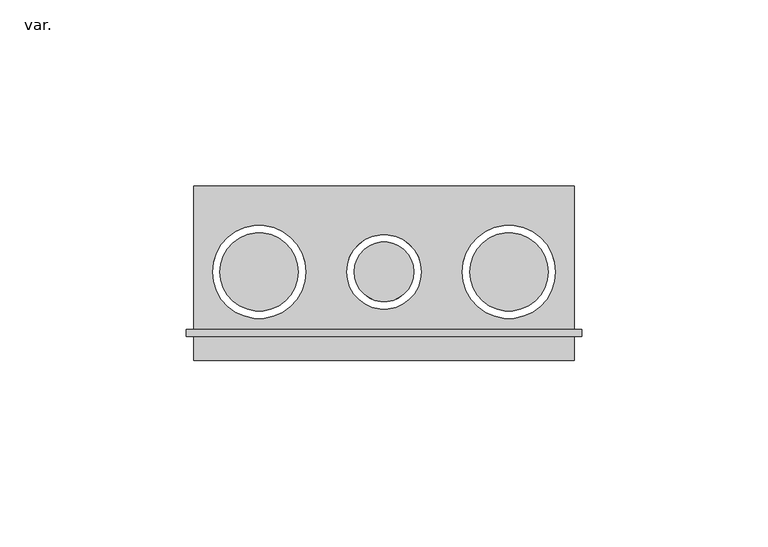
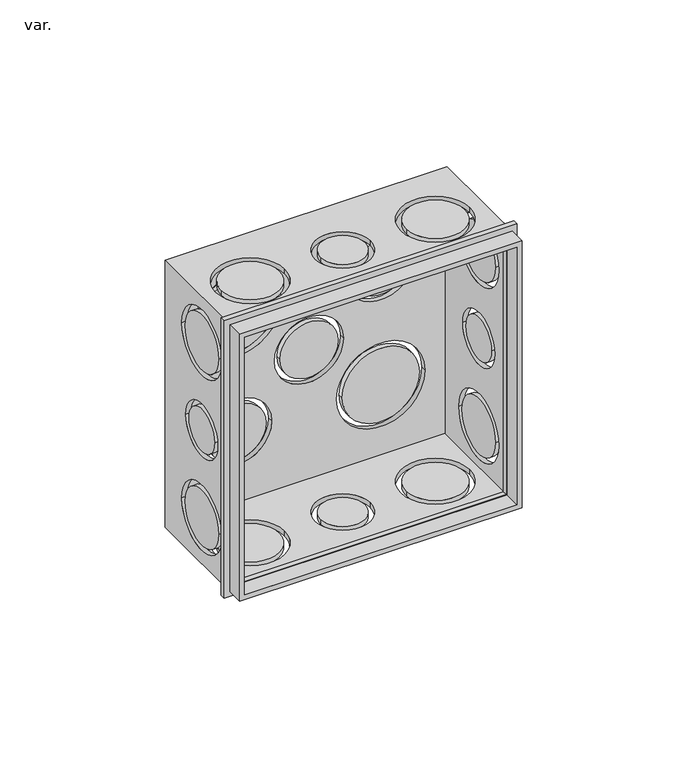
"""IFC4 building model written with IfcOpenShell, lengths in millimetres: pipe fitting geometry, AmancoWavin_ConexõesdoConduite_LinhaEletricaCorrugadoCaixa4x4 : var.."""

import ifcopenshell
import ifcopenshell.guid

model = None  # the IFC model being written
_history = None  # IfcOwnerHistory: only IFC2X3 demands one
_inside = {}  # id of a spatial element -> (the spatial element, [elements in it])
_under = {}  # id of a project, library or spatial element -> (it, [spatial elements below it])
_declared = {}  # id of a project -> (the project, [libraries it declares])
_typed = {}  # id of a type object -> (the type object, [elements of that type])
_made_of = {}  # id of a material, layer set ... -> (it, [elements and type objects made of it])


def new_model(schema):
    """Start an empty IFC model of exactly this schema.

    Asked for "IFC4X3", IfcOpenShell would pick the latest addendum, in which some entities
    have other attributes; the version numbers below select the first issue.
    IFC2X3 requires an IfcOwnerHistory on every rooted entity: one is made here for all.
    """
    global model, _history
    if schema == "IFC4X3":
        model = ifcopenshell.file(schema_version=(4, 3, 0, 0))
    else:
        model = ifcopenshell.file(schema=schema)
    _inside.clear()
    _under.clear()
    _declared.clear()
    _typed.clear()
    _made_of.clear()
    _history = None
    if model.schema == "IFC2X3":
        org = make("IfcOrganization", Name="unknown")
        user = make(
            "IfcPersonAndOrganization",
            ThePerson=make("IfcPerson", FamilyName="unknown"),
            TheOrganization=org,
        )
        app = make(
            "IfcApplication",
            ApplicationDeveloper=org,
            Version="unknown",
            ApplicationFullName="unknown",
            ApplicationIdentifier="unknown",
        )
        _history = make(
            "IfcOwnerHistory",
            OwningUser=user,
            OwningApplication=app,
            ChangeAction="ADDED",
            CreationDate=0,
        )
    return model


def make(cls, **values):
    """One entity of the class cls with the attributes given. An attribute that is None is left unset."""
    return model.create_entity(
        cls, **{name: value for name, value in values.items() if value is not None}
    )


def rooted(cls, **values):
    """An entity with a GlobalId (a new one), such as an element, a storey or a relation."""
    return make(cls, GlobalId=ifcopenshell.guid.new(), OwnerHistory=_history, **values)


def si_unit(unit_type, name, prefix=None):
    """IfcSIUnit, for example si_unit("LENGTHUNIT", "METRE", prefix="MILLI")."""
    return make("IfcSIUnit", UnitType=unit_type, Prefix=prefix, Name=name)


def assignment(units):
    """IfcUnitAssignment: the units of a project."""
    return None if units is None else make("IfcUnitAssignment", Units=units)


def point(xyz):
    """IfcCartesianPoint."""
    return None if xyz is None else make("IfcCartesianPoint", Coordinates=xyz)


def direction(xyz):
    """IfcDirection."""
    return None if xyz is None else make("IfcDirection", DirectionRatios=xyz)


def frame(location, z_axis=None, x_axis=None):
    """IfcAxis2Placement3D, a coordinate frame: its origin and axes. An axis left out is left unset."""
    return make(
        "IfcAxis2Placement3D",
        Location=point(location),
        Axis=direction(z_axis),
        RefDirection=direction(x_axis),
    )


def origin():
    """The frame at (0, 0, 0) with its axes left unset."""
    return frame((0.0, 0.0, 0.0))


def place(relative_to, where):
    """IfcLocalPlacement: puts the frame where relative to a parent placement (None: the world)."""
    return make(
        "IfcLocalPlacement", PlacementRelTo=relative_to, RelativePlacement=where
    )


def context(
    kind, dimensions, precision=None, world=None, true_north=None, identifier=None
):
    """IfcGeometricRepresentationContext, for example the 3D "Model" context."""
    return make(
        "IfcGeometricRepresentationContext",
        ContextIdentifier=identifier,
        ContextType=kind,
        CoordinateSpaceDimension=dimensions,
        Precision=precision,
        WorldCoordinateSystem=world,
        TrueNorth=true_north,
    )


def project(units=None, contexts=None):
    """IfcProject with its units and contexts."""
    return rooted(
        "IfcProject",
        Name="project",
        RepresentationContexts=contexts,
        UnitsInContext=assignment(units),
    )


def spatial(cls, under=None, at=None, **own):
    """A site, building, storey or space (cls), placed at a placement, below another one or the project."""
    s = rooted(cls, ObjectPlacement=at, **own)
    if under is not None:
        _under.setdefault(under.id(), (under, []))[1].append(s)
    return s


def polyline(points):
    """IfcPolyline through the points."""
    return make("IfcPolyline", Points=[point(p) for p in points])


def circle_curve(where, radius):
    """IfcCircle in the frame where."""
    return make("IfcCircle", Position=where, Radius=radius)


def outline(outer, holes=None, kind="AREA"):
    """IfcArbitraryClosedProfileDef: a profile drawn as a closed curve; with holes, ...WithVoids."""
    if holes is None:
        return make("IfcArbitraryClosedProfileDef", ProfileType=kind, OuterCurve=outer)
    return make(
        "IfcArbitraryProfileDefWithVoids",
        ProfileType=kind,
        OuterCurve=outer,
        InnerCurves=holes,
    )


def extrude(swept, where, along, depth):
    """IfcExtrudedAreaSolid: the profile swept, set in the frame where, extruded along a direction by depth."""
    return make(
        "IfcExtrudedAreaSolid",
        SweptArea=swept,
        Position=where,
        ExtrudedDirection=direction(along),
        Depth=depth,
    )


def shape(context_of_items, identifier, shape_type, items):
    """IfcShapeRepresentation: the items that make up one representation, for example the "Body"."""
    return make(
        "IfcShapeRepresentation",
        ContextOfItems=context_of_items,
        RepresentationIdentifier=identifier,
        RepresentationType=shape_type,
        Items=items,
    )


def source(mapping_origin, context_of_items, identifier, shape_type, items):
    """IfcRepresentationMap: a shape defined once, which mapped items show again and again."""
    return make(
        "IfcRepresentationMap",
        MappingOrigin=mapping_origin,
        MappedRepresentation=shape(context_of_items, identifier, shape_type, items),
    )


def transform(
    local_origin,
    x_axis=None,
    y_axis=None,
    z_axis=None,
    scale=None,
    scale2=None,
    scale3=None,
    uniform=True,
):
    """IfcCartesianTransformationOperator3D, or its non-uniform kind. x_axis, y_axis, z_axis: its Axis1, 2, 3."""
    if uniform:
        return make(
            "IfcCartesianTransformationOperator3D",
            Axis1=direction(x_axis),
            Axis2=direction(y_axis),
            LocalOrigin=point(local_origin),
            Scale=scale,
            Axis3=direction(z_axis),
        )
    return make(
        "IfcCartesianTransformationOperator3DnonUniform",
        Axis1=direction(x_axis),
        Axis2=direction(y_axis),
        LocalOrigin=point(local_origin),
        Scale=scale,
        Axis3=direction(z_axis),
        Scale2=scale2,
        Scale3=scale3,
    )


def mapped(mapping_source, mapping_target):
    """IfcMappedItem: shows the shape of a source again, moved by a transform."""
    return make(
        "IfcMappedItem", MappingSource=mapping_source, MappingTarget=mapping_target
    )


def made_of(thing, what):
    """Note that an element or type object is made of a material, layer set ...; save() writes the relation."""
    if what is not None:
        _made_of.setdefault(what.id(), (what, []))[1].append(thing)
    return thing


def element(
    cls,
    number,
    at=None,
    inside=None,
    cuts=None,
    type_object=None,
    material=None,
    context=None,
    identifier="Body",
    shape_type=None,
    held_by="IfcProductDefinitionShape",
    body=None,
    shapes=None,
    **own,
):
    """One element of the class cls, such as IfcWall. Its Tag is "e" and its number.

    at: its placement. inside: the storey or other place that contains it. cuts: it is an
    opening in that element (IfcRelVoidsElement). A single representation is given by context,
    identifier, shape_type and body (its items); several are given by shapes. held_by: the class
    of the entity that holds the representations. save() writes the other relations.
    """
    e = rooted(cls, Tag="e%d" % number, ObjectPlacement=at, **own)
    if body is not None:
        shapes = [shape(context, identifier, shape_type, body)]
    if shapes is not None:
        e.Representation = make(held_by, Representations=shapes)
    if inside is not None:
        _inside.setdefault(inside.id(), (inside, []))[1].append(e)
    if cuts is not None:
        rooted(
            "IfcRelVoidsElement", RelatingBuildingElement=cuts, RelatedOpeningElement=e
        )
    if type_object is not None:
        _typed.setdefault(type_object.id(), (type_object, []))[1].append(e)
    return made_of(e, material)


def aggregate(whole, parts):
    """IfcRelAggregates: a whole, such as a stair, and the parts it consists of."""
    return rooted("IfcRelAggregates", RelatingObject=whole, RelatedObjects=parts)


def save(model, path):
    """Write the relations noted so far, then the file.

    IfcRelAggregates (storeys below a building ...), IfcRelContainedInSpatialStructure (elements
    in a storey), IfcRelDefinesByType, IfcRelAssociatesMaterial and IfcRelDeclares: one each for
    every whole, place, type object, material and project.
    """
    for whole, parts in _under.values():
        aggregate(whole, parts)
    for where, things in _inside.values():
        rooted(
            "IfcRelContainedInSpatialStructure",
            RelatedElements=things,
            RelatingStructure=where,
        )
    for kind, things in _typed.values():
        rooted("IfcRelDefinesByType", RelatedObjects=things, RelatingType=kind)
    for what, things in _made_of.values():
        rooted("IfcRelAssociatesMaterial", RelatedObjects=things, RelatingMaterial=what)
    for by, libraries in _declared.values():
        rooted("IfcRelDeclares", RelatingContext=by, RelatedDefinitions=libraries)
    model.write(path)


def plane_surface(at):
    """IfcPlane: the flat surface through the origin of the frame at, square to its z axis."""
    return make("IfcPlane", Position=at)


def cylinder_surface(at, radius):
    """IfcCylindricalSurface: all points at the distance radius from the z axis of the frame at."""
    return make("IfcCylindricalSurface", Position=at, Radius=radius)


def revolved_surface(curve, axis_point, axis_direction):
    """IfcSurfaceOfRevolution: the curve turned about the line through axis_point along axis_direction."""
    return make(
        "IfcSurfaceOfRevolution",
        SweptCurve=make("IfcArbitraryOpenProfileDef", ProfileType="CURVE", Curve=curve),
        AxisPosition=make("IfcAxis1Placement", Location=point(axis_point), Axis=direction(axis_direction)),
    )


def advanced_brep(points, edges, surfaces, faces):
    """IfcAdvancedBrep: a solid bounded by faces that lie on surfaces and meet in shared edges.

    An edge is (start, end): straight between two places in points (the first is 0);
    or (start, end, curve); or (start, end, curve, False) where it runs against its curve.
    A face is (place in surfaces, loops), or (place, loops, False) where it looks against
    its surface's normal. A loop lists edges by number (the first is 1), with a minus sign
    where the edge is run from its end to its start. The first loop is the outer one.
    """
    corners = [point(p) for p in points]
    vertices = [make("IfcVertexPoint", VertexGeometry=c) for c in corners]
    made = []
    for start, end, *more in edges:
        made.append(
            make(
                "IfcEdgeCurve",
                EdgeStart=vertices[start],
                EdgeEnd=vertices[end],
                EdgeGeometry=more[0] if more else make("IfcPolyline", Points=[corners[start], corners[end]]),
                SameSense=more[1] if len(more) > 1 else True,
            )
        )
    hull = []
    for where, loops, *sense in faces:
        bounds = []
        for j, loop in enumerate(loops):
            ring = [make("IfcOrientedEdge", EdgeElement=made[abs(k) - 1], Orientation=k > 0) for k in loop]
            bounds.append(
                make(
                    "IfcFaceOuterBound" if j == 0 else "IfcFaceBound",
                    Bound=make("IfcEdgeLoop", EdgeList=ring),
                    Orientation=True,
                )
            )
        hull.append(make("IfcAdvancedFace", Bounds=bounds, FaceSurface=surfaces[where], SameSense=sense[0] if sense else True))
    return make("IfcAdvancedBrep", Outer=make("IfcClosedShell", CfsFaces=hull))


def var_34743248(model_context):
    return source(origin(), model_context, "Body", "SolidModel", [
        extrude(outline(polyline([(53.0, 53.0), (53.0, -53.0), (-53.0, -53.0), (-53.0, 53.0), (53.0, 53.0)]), holes=[polyline([(49.2, 49.2), (-49.2, 49.2), (-49.2, -49.2), (49.2, -49.2), (49.2, 49.2)])]), frame((0.0, 6.5, 0.0), z_axis=(0.0, 1.0, 0.0), x_axis=(0.0, 0.0, 1.0)), (0.0, 0.0, 1.0), 1.8),
        advanced_brep(
        [(51.0, 46.8, 51.0), (51.0, 46.8, -51.0), (-51.0, 46.8, -51.0), (-51.0, 46.8, 51.0), (-42.0, 46.8, 22.5), (-10.0, 46.8, 22.5), (13.5, 46.8, 22.5), (38.5, 46.8, 22.5), (-12.5, 46.8, 0.0), (12.5, 46.8, 0.0), (-38.5, 46.8, -22.5), (-13.5, 46.8, -22.5), (10.0, 46.8, -22.5), (42.0, 46.8, -22.5), (51.0, 0.0, 51.0), (-51.0, 0.0, 51.0), (-51.0, 0.0, -51.0), (51.0, 0.0, -51.0), (49.2, 0.0, 49.2), (49.2, 0.0, -49.2), (-49.2, 0.0, -49.2), (-49.2, 0.0, 49.2), (51.0, 33.8, 0.0), (51.0, 13.8, 0.0), (51.0, 36.3, 33.5), (51.0, 11.3, 33.5), (51.0, 36.3, -33.5), (51.0, 11.3, -33.5), (-10.0, 23.8, -51.0), (10.0, 23.8, -51.0), (-46.0, 23.8, -51.0), (-21.0, 23.8, -51.0), (21.0, 23.8, -51.0), (46.0, 23.8, -51.0), (-51.0, 13.8, 0.0), (-51.0, 33.8, 0.0), (-51.0, 11.3, 33.5), (-51.0, 36.3, 33.5), (-51.0, 11.3, -33.5), (-51.0, 36.3, -33.5), (10.0, 23.8, 51.0), (-10.0, 23.8, 51.0), (-21.0, 23.8, 51.0), (-46.0, 23.8, 51.0), (46.0, 23.8, 51.0), (21.0, 23.8, 51.0), (49.2, 45.0, 49.2), (-49.2, 45.0, 49.2), (-49.2, 45.0, -49.2), (49.2, 45.0, -49.2), (-10.0, 45.0, 22.5), (-42.0, 45.0, 22.5), (38.5, 45.0, 22.5), (13.5, 45.0, 22.5), (12.5, 45.0, 0.0), (-12.5, 45.0, 0.0), (-13.5, 45.0, -22.5), (-38.5, 45.0, -22.5), (42.0, 45.0, -22.5), (10.0, 45.0, -22.5), (49.2, 13.8, 0.0), (49.2, 33.8, 0.0), (49.2, 11.3, 33.5), (49.2, 36.3, 33.5), (49.2, 11.3, -33.5), (49.2, 36.3, -33.5), (10.0, 23.8, -49.2), (-10.0, 23.8, -49.2), (-21.0, 23.8, -49.2), (-46.0, 23.8, -49.2), (46.0, 23.8, -49.2), (21.0, 23.8, -49.2), (-49.2, 33.8, 0.0), (-49.2, 13.8, 0.0), (-49.2, 36.3, 33.5), (-49.2, 11.3, 33.5), (-49.2, 36.3, -33.5), (-49.2, 11.3, -33.5), (-10.0, 23.8, 49.2), (10.0, 23.8, 49.2), (-46.0, 23.8, 49.2), (-21.0, 23.8, 49.2), (21.0, 23.8, 49.2), (46.0, 23.8, 49.2)],
        [
            (0, 1),
            (1, 2),
            (2, 3),
            (3, 0),
            (4, 5, circle_curve(frame((-26.0, 46.8, 22.5), z_axis=(0.0, -1.0, 0.0), x_axis=(-1.0, 0.0, 0.0)), 16.0)),
            (5, 4, circle_curve(frame((-26.0, 46.8, 22.5), z_axis=(0.0, -1.0, 0.0), x_axis=(-1.0, 0.0, 0.0)), 16.0)),
            (6, 7, circle_curve(frame((26.0, 46.8, 22.5), z_axis=(0.0, -1.0, 0.0), x_axis=(-1.0, 0.0, 0.0)), 12.5)),
            (7, 6, circle_curve(frame((26.0, 46.8, 22.5), z_axis=(0.0, -1.0, 0.0), x_axis=(-1.0, 0.0, 0.0)), 12.5)),
            (8, 9, circle_curve(frame((0.0, 46.8, 0.0), z_axis=(0.0, -1.0, 0.0), x_axis=(-1.0, 0.0, 0.0)), 12.5)),
            (9, 8, circle_curve(frame((0.0, 46.8, 0.0), z_axis=(0.0, -1.0, 0.0), x_axis=(-1.0, 0.0, 0.0)), 12.5)),
            (10, 11, circle_curve(frame((-26.0, 46.8, -22.5), z_axis=(0.0, -1.0, 0.0), x_axis=(-1.0, 0.0, 0.0)), 12.5)),
            (11, 10, circle_curve(frame((-26.0, 46.8, -22.5), z_axis=(0.0, -1.0, 0.0), x_axis=(-1.0, 0.0, 0.0)), 12.5)),
            (12, 13, circle_curve(frame((26.0, 46.8, -22.5), z_axis=(0.0, -1.0, 0.0), x_axis=(-1.0, 0.0, 0.0)), 16.0)),
            (13, 12, circle_curve(frame((26.0, 46.8, -22.5), z_axis=(0.0, -1.0, 0.0), x_axis=(-1.0, 0.0, 0.0)), 16.0)),
            (14, 15),
            (15, 16),
            (16, 17),
            (17, 14),
            (18, 19),
            (19, 20),
            (20, 21),
            (21, 18),
            (0, 14),
            (17, 1),
            (22, 23, circle_curve(frame((51.0, 23.8, 0.0), z_axis=(-1.0, 0.0, 0.0), x_axis=(0.0, -1.0, 0.0)), 10.0)),
            (23, 22, circle_curve(frame((51.0, 23.8, 0.0), z_axis=(-1.0, 0.0, 0.0), x_axis=(0.0, -1.0, 0.0)), 10.0)),
            (24, 25, circle_curve(frame((51.0, 23.8, 33.5), z_axis=(-1.0, 0.0, 0.0), x_axis=(0.0, -1.0, 0.0)), 12.5)),
            (25, 24, circle_curve(frame((51.0, 23.8, 33.5), z_axis=(-1.0, 0.0, 0.0), x_axis=(0.0, -1.0, 0.0)), 12.5)),
            (26, 27, circle_curve(frame((51.0, 23.8, -33.5), z_axis=(-1.0, 0.0, 0.0), x_axis=(0.0, -1.0, 0.0)), 12.5)),
            (27, 26, circle_curve(frame((51.0, 23.8, -33.5), z_axis=(-1.0, 0.0, 0.0), x_axis=(0.0, -1.0, 0.0)), 12.5)),
            (16, 2),
            (28, 29, circle_curve(frame((0.0, 23.8, -51.0), z_axis=(0.0, 0.0, 1.0), x_axis=(1.0, 0.0, 0.0)), 10.0)),
            (29, 28, circle_curve(frame((0.0, 23.8, -51.0), z_axis=(0.0, 0.0, 1.0), x_axis=(1.0, 0.0, 0.0)), 10.0)),
            (30, 31, circle_curve(frame((-33.5, 23.8, -51.0), z_axis=(0.0, 0.0, 1.0), x_axis=(1.0, 0.0, 0.0)), 12.5)),
            (31, 30, circle_curve(frame((-33.5, 23.8, -51.0), z_axis=(0.0, 0.0, 1.0), x_axis=(1.0, 0.0, 0.0)), 12.5)),
            (32, 33, circle_curve(frame((33.5, 23.8, -51.0), z_axis=(0.0, 0.0, 1.0), x_axis=(1.0, 0.0, 0.0)), 12.5)),
            (33, 32, circle_curve(frame((33.5, 23.8, -51.0), z_axis=(0.0, 0.0, 1.0), x_axis=(1.0, 0.0, 0.0)), 12.5)),
            (15, 3),
            (34, 35, circle_curve(frame((-51.0, 23.8, 0.0), z_axis=(1.0, 0.0, 0.0), x_axis=(0.0, -1.0, 0.0)), 10.0)),
            (35, 34, circle_curve(frame((-51.0, 23.8, 0.0), z_axis=(1.0, 0.0, 0.0), x_axis=(0.0, -1.0, 0.0)), 10.0)),
            (36, 37, circle_curve(frame((-51.0, 23.8, 33.5), z_axis=(1.0, 0.0, 0.0), x_axis=(0.0, -1.0, 0.0)), 12.5)),
            (37, 36, circle_curve(frame((-51.0, 23.8, 33.5), z_axis=(1.0, 0.0, 0.0), x_axis=(0.0, -1.0, 0.0)), 12.5)),
            (38, 39, circle_curve(frame((-51.0, 23.8, -33.5), z_axis=(1.0, 0.0, 0.0), x_axis=(0.0, -1.0, 0.0)), 12.5)),
            (39, 38, circle_curve(frame((-51.0, 23.8, -33.5), z_axis=(1.0, 0.0, 0.0), x_axis=(0.0, -1.0, 0.0)), 12.5)),
            (40, 41, circle_curve(frame((0.0, 23.8, 51.0), z_axis=(0.0, 0.0, -1.0), x_axis=(1.0, 0.0, 0.0)), 10.0)),
            (41, 40, circle_curve(frame((0.0, 23.8, 51.0), z_axis=(0.0, 0.0, -1.0), x_axis=(1.0, 0.0, 0.0)), 10.0)),
            (42, 43, circle_curve(frame((-33.5, 23.8, 51.0), z_axis=(0.0, 0.0, -1.0), x_axis=(1.0, 0.0, 0.0)), 12.5)),
            (43, 42, circle_curve(frame((-33.5, 23.8, 51.0), z_axis=(0.0, 0.0, -1.0), x_axis=(1.0, 0.0, 0.0)), 12.5)),
            (44, 45, circle_curve(frame((33.5, 23.8, 51.0), z_axis=(0.0, 0.0, -1.0), x_axis=(1.0, 0.0, 0.0)), 12.5)),
            (45, 44, circle_curve(frame((33.5, 23.8, 51.0), z_axis=(0.0, 0.0, -1.0), x_axis=(1.0, 0.0, 0.0)), 12.5)),
            (46, 47),
            (47, 48),
            (48, 49),
            (49, 46),
            (50, 51, circle_curve(frame((-26.0, 45.0, 22.5), z_axis=(0.0, 1.0, 0.0), x_axis=(-1.0, 0.0, 0.0)), 16.0)),
            (51, 50, circle_curve(frame((-26.0, 45.0, 22.5), z_axis=(0.0, 1.0, 0.0), x_axis=(-1.0, 0.0, 0.0)), 16.0)),
            (52, 53, circle_curve(frame((26.0, 45.0, 22.5), z_axis=(0.0, 1.0, 0.0), x_axis=(-1.0, 0.0, 0.0)), 12.5)),
            (53, 52, circle_curve(frame((26.0, 45.0, 22.5), z_axis=(0.0, 1.0, 0.0), x_axis=(-1.0, 0.0, 0.0)), 12.5)),
            (54, 55, circle_curve(frame((0.0, 45.0, 0.0), z_axis=(0.0, 1.0, 0.0), x_axis=(-1.0, 0.0, 0.0)), 12.5)),
            (55, 54, circle_curve(frame((0.0, 45.0, 0.0), z_axis=(0.0, 1.0, 0.0), x_axis=(-1.0, 0.0, 0.0)), 12.5)),
            (56, 57, circle_curve(frame((-26.0, 45.0, -22.5), z_axis=(0.0, 1.0, 0.0), x_axis=(-1.0, 0.0, 0.0)), 12.5)),
            (57, 56, circle_curve(frame((-26.0, 45.0, -22.5), z_axis=(0.0, 1.0, 0.0), x_axis=(-1.0, 0.0, 0.0)), 12.5)),
            (58, 59, circle_curve(frame((26.0, 45.0, -22.5), z_axis=(0.0, 1.0, 0.0), x_axis=(-1.0, 0.0, 0.0)), 16.0)),
            (59, 58, circle_curve(frame((26.0, 45.0, -22.5), z_axis=(0.0, 1.0, 0.0), x_axis=(-1.0, 0.0, 0.0)), 16.0)),
            (49, 19),
            (18, 46),
            (60, 61, circle_curve(frame((49.2, 23.8, 0.0), z_axis=(1.0, 0.0, 0.0), x_axis=(0.0, -1.0, 0.0)), 10.0)),
            (61, 60, circle_curve(frame((49.2, 23.8, 0.0), z_axis=(1.0, 0.0, 0.0), x_axis=(0.0, -1.0, 0.0)), 10.0)),
            (62, 63, circle_curve(frame((49.2, 23.8, 33.5), z_axis=(1.0, 0.0, 0.0), x_axis=(0.0, -1.0, 0.0)), 12.5)),
            (63, 62, circle_curve(frame((49.2, 23.8, 33.5), z_axis=(1.0, 0.0, 0.0), x_axis=(0.0, -1.0, 0.0)), 12.5)),
            (64, 65, circle_curve(frame((49.2, 23.8, -33.5), z_axis=(1.0, 0.0, 0.0), x_axis=(0.0, -1.0, 0.0)), 12.5)),
            (65, 64, circle_curve(frame((49.2, 23.8, -33.5), z_axis=(1.0, 0.0, 0.0), x_axis=(0.0, -1.0, 0.0)), 12.5)),
            (48, 20),
            (66, 67, circle_curve(frame((0.0, 23.8, -49.2), z_axis=(0.0, 0.0, -1.0), x_axis=(1.0, 0.0, 0.0)), 10.0)),
            (67, 66, circle_curve(frame((0.0, 23.8, -49.2), z_axis=(0.0, 0.0, -1.0), x_axis=(1.0, 0.0, 0.0)), 10.0)),
            (68, 69, circle_curve(frame((-33.5, 23.8, -49.2), z_axis=(0.0, 0.0, -1.0), x_axis=(1.0, 0.0, 0.0)), 12.5)),
            (69, 68, circle_curve(frame((-33.5, 23.8, -49.2), z_axis=(0.0, 0.0, -1.0), x_axis=(1.0, 0.0, 0.0)), 12.5)),
            (70, 71, circle_curve(frame((33.5, 23.8, -49.2), z_axis=(0.0, 0.0, -1.0), x_axis=(1.0, 0.0, 0.0)), 12.5)),
            (71, 70, circle_curve(frame((33.5, 23.8, -49.2), z_axis=(0.0, 0.0, -1.0), x_axis=(1.0, 0.0, 0.0)), 12.5)),
            (47, 21),
            (72, 73, circle_curve(frame((-49.2, 23.8, 0.0), z_axis=(-1.0, 0.0, 0.0), x_axis=(0.0, -1.0, 0.0)), 10.0)),
            (73, 72, circle_curve(frame((-49.2, 23.8, 0.0), z_axis=(-1.0, 0.0, 0.0), x_axis=(0.0, -1.0, 0.0)), 10.0)),
            (74, 75, circle_curve(frame((-49.2, 23.8, 33.5), z_axis=(-1.0, 0.0, 0.0), x_axis=(0.0, -1.0, 0.0)), 12.5)),
            (75, 74, circle_curve(frame((-49.2, 23.8, 33.5), z_axis=(-1.0, 0.0, 0.0), x_axis=(0.0, -1.0, 0.0)), 12.5)),
            (76, 77, circle_curve(frame((-49.2, 23.8, -33.5), z_axis=(-1.0, 0.0, 0.0), x_axis=(0.0, -1.0, 0.0)), 12.5)),
            (77, 76, circle_curve(frame((-49.2, 23.8, -33.5), z_axis=(-1.0, 0.0, 0.0), x_axis=(0.0, -1.0, 0.0)), 12.5)),
            (78, 79, circle_curve(frame((0.0, 23.8, 49.2), z_axis=(0.0, 0.0, 1.0), x_axis=(1.0, 0.0, 0.0)), 10.0)),
            (79, 78, circle_curve(frame((0.0, 23.8, 49.2), z_axis=(0.0, 0.0, 1.0), x_axis=(1.0, 0.0, 0.0)), 10.0)),
            (80, 81, circle_curve(frame((-33.5, 23.8, 49.2), z_axis=(0.0, 0.0, 1.0), x_axis=(1.0, 0.0, 0.0)), 12.5)),
            (81, 80, circle_curve(frame((-33.5, 23.8, 49.2), z_axis=(0.0, 0.0, 1.0), x_axis=(1.0, 0.0, 0.0)), 12.5)),
            (82, 83, circle_curve(frame((33.5, 23.8, 49.2), z_axis=(0.0, 0.0, 1.0), x_axis=(1.0, 0.0, 0.0)), 12.5)),
            (83, 82, circle_curve(frame((33.5, 23.8, 49.2), z_axis=(0.0, 0.0, 1.0), x_axis=(1.0, 0.0, 0.0)), 12.5)),
            (22, 61),
            (60, 23),
            (72, 35),
            (34, 73),
            (24, 63),
            (62, 25),
            (74, 37),
            (36, 75),
            (26, 65),
            (64, 27),
            (76, 39),
            (38, 77),
            (28, 67),
            (66, 29),
            (78, 41),
            (40, 79),
            (30, 69),
            (68, 31),
            (80, 43),
            (42, 81),
            (32, 71),
            (70, 33),
            (82, 45),
            (44, 83),
            (4, 51),
            (50, 5),
            (6, 53),
            (52, 7),
            (8, 55),
            (54, 9),
            (10, 57),
            (56, 11),
            (12, 59),
            (58, 13),
        ],
        [
            plane_surface(frame((51.0, 46.8, 51.0), z_axis=(0.0, 1.0, 0.0), x_axis=(0.0, 0.0, -1.0))),
            plane_surface(frame((51.0, 0.0, 51.0), z_axis=(0.0, -1.0, 0.0), x_axis=(0.0, 0.0, 1.0))),
            plane_surface(frame((51.0, 46.8, 51.0), z_axis=(1.0, 0.0, 0.0), x_axis=(0.0, -1.0, 0.0))),
            plane_surface(frame((51.0, 46.8, -51.0), z_axis=(0.0, 0.0, -1.0), x_axis=(0.0, -1.0, 0.0))),
            plane_surface(frame((-51.0, 46.8, -51.0), z_axis=(-1.0, 0.0, 0.0), x_axis=(0.0, -1.0, 0.0))),
            plane_surface(frame((-51.0, 46.8, 51.0), z_axis=(0.0, 0.0, 1.0), x_axis=(0.0, -1.0, 0.0))),
            plane_surface(frame((49.2, 45.0, 49.2), z_axis=(0.0, -1.0, 0.0), x_axis=(0.0, 0.0, -1.0))),
            plane_surface(frame((49.2, 45.0, 49.2), z_axis=(-1.0, 0.0, 0.0), x_axis=(0.0, -1.0, 0.0))),
            plane_surface(frame((49.2, 45.0, -49.2), z_axis=(0.0, 0.0, 1.0), x_axis=(0.0, -1.0, 0.0))),
            plane_surface(frame((-49.2, 45.0, -49.2), z_axis=(1.0, 0.0, 0.0), x_axis=(0.0, -1.0, 0.0))),
            plane_surface(frame((-49.2, 45.0, 49.2), z_axis=(0.0, 0.0, -1.0), x_axis=(0.0, -1.0, 0.0))),
            revolved_surface(polyline([(49.2, 13.8, 0.0), (51.0, 13.8, 0.0)]), (51.0, 23.8, 0.0), (-1.0, 0.0, 0.0)),
            revolved_surface(polyline([(-51.0, 13.8, 0.0), (-49.2, 13.8, 0.0)]), (51.0, 23.8, 0.0), (-1.0, 0.0, 0.0)),
            revolved_surface(polyline([(49.2, 11.3, 33.5), (51.0, 11.3, 33.5)]), (0.0, 23.8, 33.5), (-1.0, 0.0, 0.0)),
            revolved_surface(polyline([(-51.0, 11.3, 33.5), (-49.2, 11.3, 33.5)]), (0.0, 23.8, 33.5), (-1.0, 0.0, 0.0)),
            revolved_surface(polyline([(49.2, 11.3, -33.5), (51.0, 11.3, -33.5)]), (0.0, 23.8, -33.5), (-1.0, 0.0, 0.0)),
            revolved_surface(polyline([(-51.0, 11.3, -33.5), (-49.2, 11.3, -33.5)]), (0.0, 23.8, -33.5), (-1.0, 0.0, 0.0)),
            revolved_surface(polyline([(10.0, 23.8, -49.2), (10.0, 23.8, -51.0)]), (0.0, 23.8, -51.0), (0.0, 0.0, 1.0)),
            revolved_surface(polyline([(10.0, 23.8, 51.0), (10.0, 23.8, 49.2)]), (0.0, 23.8, -51.0), (0.0, 0.0, 1.0)),
            revolved_surface(polyline([(-21.0, 23.8, -49.2), (-21.0, 23.8, -51.0)]), (-33.5, 23.8, 0.0), (0.0, 0.0, 1.0)),
            revolved_surface(polyline([(-21.0, 23.8, 51.0), (-21.0, 23.8, 49.2)]), (-33.5, 23.8, 0.0), (0.0, 0.0, 1.0)),
            revolved_surface(polyline([(46.0, 23.8, -49.2), (46.0, 23.8, -51.0)]), (33.5, 23.8, 0.0), (0.0, 0.0, 1.0)),
            revolved_surface(polyline([(46.0, 23.8, 51.0), (46.0, 23.8, 49.2)]), (33.5, 23.8, 0.0), (0.0, 0.0, 1.0)),
            revolved_surface(polyline([(-42.0, 46.8, 22.5), (-42.0, 45.0, 22.5)]), (-26.0, 0.0, 22.5), (0.0, 1.0, 0.0)),
            revolved_surface(polyline([(13.5, 46.8, 22.5), (13.5, 45.0, 22.5)]), (26.0, 0.0, 22.5), (0.0, 1.0, 0.0)),
            revolved_surface(polyline([(-12.5, 46.8, 0.0), (-12.5, 45.0, 0.0)]), (0.0, 0.0, 0.0), (0.0, 1.0, 0.0)),
            revolved_surface(polyline([(-38.5, 46.8, -22.5), (-38.5, 45.0, -22.5)]), (-26.0, 0.0, -22.5), (0.0, 1.0, 0.0)),
            revolved_surface(polyline([(10.0, 46.8, -22.5), (10.0, 45.0, -22.5)]), (26.0, 0.0, -22.5), (0.0, 1.0, 0.0)),
        ],
        [
            (0, [[1, 2, 3, 4], [5, 6], [7, 8], [9, 10], [11, 12], [13, 14]]),
            (1, [[15, 16, 17, 18], [19, 20, 21, 22]]),
            (2, [[-1, 23, -18, 24], [25, 26], [27, 28], [29, 30]]),
            (3, [[-2, -24, -17, 31], [32, 33], [34, 35], [36, 37]]),
            (4, [[-3, -31, -16, 38], [39, 40], [41, 42], [43, 44]]),
            (5, [[-4, -38, -15, -23], [45, 46], [47, 48], [49, 50]]),
            (6, [[51, 52, 53, 54], [55, 56], [57, 58], [59, 60], [61, 62], [63, 64]]),
            (7, [[-54, 65, -19, 66], [67, 68], [69, 70], [71, 72]]),
            (8, [[-53, 73, -20, -65], [74, 75], [76, 77], [78, 79]]),
            (9, [[-52, 80, -21, -73], [81, 82], [83, 84], [85, 86]]),
            (10, [[-51, -66, -22, -80], [87, 88], [89, 90], [91, 92]]),
            (11, [[93, -67, 94, -25]]),
            (12, [[95, -39, 96, -81]]),
            (11, [[-93, -26, -94, -68]]),
            (12, [[-95, -82, -96, -40]]),
            (13, [[97, -69, 98, -27]]),
            (14, [[99, -41, 100, -83]]),
            (13, [[-97, -28, -98, -70]]),
            (14, [[-99, -84, -100, -42]]),
            (15, [[101, -71, 102, -29]]),
            (16, [[103, -43, 104, -85]]),
            (15, [[-101, -30, -102, -72]]),
            (16, [[-103, -86, -104, -44]]),
            (17, [[105, -74, 106, -32]]),
            (18, [[107, -45, 108, -87]]),
            (17, [[-105, -33, -106, -75]]),
            (18, [[-107, -88, -108, -46]]),
            (19, [[109, -76, 110, -34]]),
            (20, [[111, -47, 112, -89]]),
            (19, [[-109, -35, -110, -77]]),
            (20, [[-111, -90, -112, -48]]),
            (21, [[113, -78, 114, -36]]),
            (22, [[115, -49, 116, -91]]),
            (21, [[-113, -37, -114, -79]]),
            (22, [[-115, -92, -116, -50]]),
            (23, [[117, -55, 118, -5]]),
            (23, [[-117, -6, -118, -56]]),
            (24, [[119, -57, 120, -7]]),
            (24, [[-119, -8, -120, -58]]),
            (25, [[121, -59, 122, -9]]),
            (25, [[-121, -10, -122, -60]]),
            (26, [[123, -61, 124, -11]]),
            (26, [[-123, -12, -124, -62]]),
            (27, [[125, -63, 126, -13]]),
            (27, [[-125, -14, -126, -64]]),
        ],
    ),
        advanced_brep(
        [(-40.0, 46.8, 22.5), (-12.0, 46.8, 22.5), (-12.0, 45.0, 22.5), (-40.0, 45.0, 22.5)],
        [
            (0, 1, circle_curve(frame((-26.0, 46.8, 22.5), z_axis=(0.0, 1.0, 0.0), x_axis=(-1.0, 0.0, 0.0)), 14.0)),
            (1, 0, circle_curve(frame((-26.0, 46.8, 22.5), z_axis=(0.0, 1.0, 0.0), x_axis=(-1.0, 0.0, 0.0)), 14.0)),
            (2, 3, circle_curve(frame((-26.0, 45.0, 22.5), z_axis=(0.0, -1.0, 0.0), x_axis=(-1.0, 0.0, 0.0)), 14.0)),
            (3, 2, circle_curve(frame((-26.0, 45.0, 22.5), z_axis=(0.0, -1.0, 0.0), x_axis=(-1.0, 0.0, 0.0)), 14.0)),
            (0, 3),
            (2, 1),
        ],
        [
            plane_surface(frame((51.0, 46.8, 51.0), z_axis=(0.0, 1.0, 0.0), x_axis=(0.0, 0.0, -1.0))),
            plane_surface(frame((49.2, 45.0, 49.2), z_axis=(0.0, -1.0, 0.0), x_axis=(0.0, 0.0, -1.0))),
            cylinder_surface(frame((-26.0, 45.0, 22.5), z_axis=(0.0, -1.0, 0.0), x_axis=(-1.0, 0.0, 0.0)), 14.0),
        ],
        [
            (0, [[1, 2]]),
            (1, [[3, 4]]),
            (2, [[5, -3, 6, -1]]),
            (2, [[-5, -2, -6, -4]]),
        ],
    ),
        advanced_brep(
        [(15.5, 46.8, 22.5), (36.5, 46.8, 22.5), (36.5, 45.0, 22.5), (15.5, 45.0, 22.5)],
        [
            (0, 1, circle_curve(frame((26.0, 46.8, 22.5), z_axis=(0.0, 1.0, 0.0), x_axis=(-1.0, 0.0, 0.0)), 10.5)),
            (1, 0, circle_curve(frame((26.0, 46.8, 22.5), z_axis=(0.0, 1.0, 0.0), x_axis=(-1.0, 0.0, 0.0)), 10.5)),
            (2, 3, circle_curve(frame((26.0, 45.0, 22.5), z_axis=(0.0, -1.0, 0.0), x_axis=(-1.0, 0.0, 0.0)), 10.5)),
            (3, 2, circle_curve(frame((26.0, 45.0, 22.5), z_axis=(0.0, -1.0, 0.0), x_axis=(-1.0, 0.0, 0.0)), 10.5)),
            (0, 3),
            (2, 1),
        ],
        [
            plane_surface(frame((51.0, 46.8, 51.0), z_axis=(0.0, 1.0, 0.0), x_axis=(0.0, 0.0, -1.0))),
            plane_surface(frame((49.2, 45.0, 49.2), z_axis=(0.0, -1.0, 0.0), x_axis=(0.0, 0.0, -1.0))),
            cylinder_surface(frame((26.0, 0.0, 22.5), z_axis=(0.0, -1.0, 0.0), x_axis=(-1.0, 0.0, 0.0)), 10.5),
        ],
        [
            (0, [[1, 2]]),
            (1, [[3, 4]]),
            (2, [[5, -3, 6, -1]]),
            (2, [[-5, -2, -6, -4]]),
        ],
    ),
        advanced_brep(
        [(-10.5, 46.8, 0.0), (10.5, 46.8, 0.0), (10.5, 45.0, 0.0), (-10.5, 45.0, 0.0)],
        [
            (0, 1, circle_curve(frame((0.0, 46.8, 0.0), z_axis=(0.0, 1.0, 0.0), x_axis=(-1.0, 0.0, 0.0)), 10.5)),
            (1, 0, circle_curve(frame((0.0, 46.8, 0.0), z_axis=(0.0, 1.0, 0.0), x_axis=(-1.0, 0.0, 0.0)), 10.5)),
            (2, 3, circle_curve(frame((0.0, 45.0, 0.0), z_axis=(0.0, -1.0, 0.0), x_axis=(-1.0, 0.0, 0.0)), 10.5)),
            (3, 2, circle_curve(frame((0.0, 45.0, 0.0), z_axis=(0.0, -1.0, 0.0), x_axis=(-1.0, 0.0, 0.0)), 10.5)),
            (0, 3),
            (2, 1),
        ],
        [
            plane_surface(frame((51.0, 46.8, 51.0), z_axis=(0.0, 1.0, 0.0), x_axis=(0.0, 0.0, -1.0))),
            plane_surface(frame((49.2, 45.0, 49.2), z_axis=(0.0, -1.0, 0.0), x_axis=(0.0, 0.0, -1.0))),
            cylinder_surface(frame((0.0, 0.0, 0.0), z_axis=(0.0, -1.0, 0.0), x_axis=(-1.0, 0.0, 0.0)), 10.5),
        ],
        [
            (0, [[1, 2]]),
            (1, [[3, 4]]),
            (2, [[5, -3, 6, -1]]),
            (2, [[-5, -2, -6, -4]]),
        ],
    ),
        advanced_brep(
        [(-36.5, 46.8, -22.5), (-15.5, 46.8, -22.5), (-15.5, 45.0, -22.5), (-36.5, 45.0, -22.5)],
        [
            (0, 1, circle_curve(frame((-26.0, 46.8, -22.5), z_axis=(0.0, 1.0, 0.0), x_axis=(-1.0, 0.0, 0.0)), 10.5)),
            (1, 0, circle_curve(frame((-26.0, 46.8, -22.5), z_axis=(0.0, 1.0, 0.0), x_axis=(-1.0, 0.0, 0.0)), 10.5)),
            (2, 3, circle_curve(frame((-26.0, 45.0, -22.5), z_axis=(0.0, -1.0, 0.0), x_axis=(-1.0, 0.0, 0.0)), 10.5)),
            (3, 2, circle_curve(frame((-26.0, 45.0, -22.5), z_axis=(0.0, -1.0, 0.0), x_axis=(-1.0, 0.0, 0.0)), 10.5)),
            (0, 3),
            (2, 1),
        ],
        [
            plane_surface(frame((51.0, 46.8, 51.0), z_axis=(0.0, 1.0, 0.0), x_axis=(0.0, 0.0, -1.0))),
            plane_surface(frame((49.2, 45.0, 49.2), z_axis=(0.0, -1.0, 0.0), x_axis=(0.0, 0.0, -1.0))),
            cylinder_surface(frame((-26.0, 0.0, -22.5), z_axis=(0.0, -1.0, 0.0), x_axis=(-1.0, 0.0, 0.0)), 10.5),
        ],
        [
            (0, [[1, 2]]),
            (1, [[3, 4]]),
            (2, [[5, -3, 6, -1]]),
            (2, [[-5, -2, -6, -4]]),
        ],
    ),
        advanced_brep(
        [(12.0, 46.8, -22.5), (40.0, 46.8, -22.5), (40.0, 45.0, -22.5), (12.0, 45.0, -22.5)],
        [
            (0, 1, circle_curve(frame((26.0, 46.8, -22.5), z_axis=(0.0, 1.0, 0.0), x_axis=(-1.0, 0.0, 0.0)), 14.0)),
            (1, 0, circle_curve(frame((26.0, 46.8, -22.5), z_axis=(0.0, 1.0, 0.0), x_axis=(-1.0, 0.0, 0.0)), 14.0)),
            (2, 3, circle_curve(frame((26.0, 45.0, -22.5), z_axis=(0.0, -1.0, 0.0), x_axis=(-1.0, 0.0, 0.0)), 14.0)),
            (3, 2, circle_curve(frame((26.0, 45.0, -22.5), z_axis=(0.0, -1.0, 0.0), x_axis=(-1.0, 0.0, 0.0)), 14.0)),
            (0, 3),
            (2, 1),
        ],
        [
            plane_surface(frame((51.0, 46.8, 51.0), z_axis=(0.0, 1.0, 0.0), x_axis=(0.0, 0.0, -1.0))),
            plane_surface(frame((49.2, 45.0, 49.2), z_axis=(0.0, -1.0, 0.0), x_axis=(0.0, 0.0, -1.0))),
            cylinder_surface(frame((26.0, 0.0, -22.5), z_axis=(0.0, -1.0, 0.0), x_axis=(-1.0, 0.0, 0.0)), 14.0),
        ],
        [
            (0, [[1, 2]]),
            (1, [[3, 4]]),
            (2, [[5, -3, 6, -1]]),
            (2, [[-5, -2, -6, -4]]),
        ],
    ),
        advanced_brep(
        [(51.0, 34.3, 33.5), (51.0, 13.3, 33.5), (49.2, 13.3, 33.5), (49.2, 34.3, 33.5)],
        [
            (0, 1, circle_curve(frame((51.0, 23.8, 33.5), z_axis=(1.0, 0.0, 0.0), x_axis=(0.0, -1.0, 0.0)), 10.5)),
            (1, 0, circle_curve(frame((51.0, 23.8, 33.5), z_axis=(1.0, 0.0, 0.0), x_axis=(0.0, -1.0, 0.0)), 10.5)),
            (2, 3, circle_curve(frame((49.2, 23.8, 33.5), z_axis=(-1.0, 0.0, 0.0), x_axis=(0.0, -1.0, 0.0)), 10.5)),
            (3, 2, circle_curve(frame((49.2, 23.8, 33.5), z_axis=(-1.0, 0.0, 0.0), x_axis=(0.0, -1.0, 0.0)), 10.5)),
            (0, 3),
            (2, 1),
        ],
        [
            plane_surface(frame((51.0, 46.8, 51.0), z_axis=(1.0, 0.0, 0.0), x_axis=(0.0, -1.0, 0.0))),
            plane_surface(frame((49.2, 45.0, 49.2), z_axis=(-1.0, 0.0, 0.0), x_axis=(0.0, -1.0, 0.0))),
            cylinder_surface(frame((0.0, 23.8, 33.5), z_axis=(1.0, 0.0, 0.0), x_axis=(0.0, -1.0, 0.0)), 10.5),
        ],
        [
            (0, [[1, 2]]),
            (1, [[3, 4]]),
            (2, [[5, -3, 6, -1]]),
            (2, [[-5, -2, -6, -4]]),
        ],
    ),
        advanced_brep(
        [(51.0, 34.3, -33.5), (51.0, 13.3, -33.5), (49.2, 13.3, -33.5), (49.2, 34.3, -33.5)],
        [
            (0, 1, circle_curve(frame((51.0, 23.8, -33.5), z_axis=(1.0, 0.0, 0.0), x_axis=(0.0, -1.0, 0.0)), 10.5)),
            (1, 0, circle_curve(frame((51.0, 23.8, -33.5), z_axis=(1.0, 0.0, 0.0), x_axis=(0.0, -1.0, 0.0)), 10.5)),
            (2, 3, circle_curve(frame((49.2, 23.8, -33.5), z_axis=(-1.0, 0.0, 0.0), x_axis=(0.0, -1.0, 0.0)), 10.5)),
            (3, 2, circle_curve(frame((49.2, 23.8, -33.5), z_axis=(-1.0, 0.0, 0.0), x_axis=(0.0, -1.0, 0.0)), 10.5)),
            (0, 3),
            (2, 1),
        ],
        [
            plane_surface(frame((51.0, 46.8, 51.0), z_axis=(1.0, 0.0, 0.0), x_axis=(0.0, -1.0, 0.0))),
            plane_surface(frame((49.2, 45.0, 49.2), z_axis=(-1.0, 0.0, 0.0), x_axis=(0.0, -1.0, 0.0))),
            cylinder_surface(frame((0.0, 23.8, -33.5), z_axis=(1.0, 0.0, 0.0), x_axis=(0.0, -1.0, 0.0)), 10.5),
        ],
        [
            (0, [[1, 2]]),
            (1, [[3, 4]]),
            (2, [[5, -3, 6, -1]]),
            (2, [[-5, -2, -6, -4]]),
        ],
    ),
        advanced_brep(
        [(51.0, 31.8, 0.0), (51.0, 15.8, 0.0), (49.2, 15.8, 0.0), (49.2, 31.8, 0.0)],
        [
            (0, 1, circle_curve(frame((51.0, 23.8, 0.0), z_axis=(1.0, 0.0, 0.0), x_axis=(0.0, -1.0, 0.0)), 8.0)),
            (1, 0, circle_curve(frame((51.0, 23.8, 0.0), z_axis=(1.0, 0.0, 0.0), x_axis=(0.0, -1.0, 0.0)), 8.0)),
            (2, 3, circle_curve(frame((49.2, 23.8, 0.0), z_axis=(-1.0, 0.0, 0.0), x_axis=(0.0, -1.0, 0.0)), 8.0)),
            (3, 2, circle_curve(frame((49.2, 23.8, 0.0), z_axis=(-1.0, 0.0, 0.0), x_axis=(0.0, -1.0, 0.0)), 8.0)),
            (0, 3),
            (2, 1),
        ],
        [
            plane_surface(frame((51.0, 46.8, 51.0), z_axis=(1.0, 0.0, 0.0), x_axis=(0.0, -1.0, 0.0))),
            plane_surface(frame((49.2, 45.0, 49.2), z_axis=(-1.0, 0.0, 0.0), x_axis=(0.0, -1.0, 0.0))),
            cylinder_surface(frame((0.0, 23.8, 0.0), z_axis=(1.0, 0.0, 0.0), x_axis=(0.0, -1.0, 0.0)), 8.0),
        ],
        [
            (0, [[1, 2]]),
            (1, [[3, 4]]),
            (2, [[5, -3, 6, -1]]),
            (2, [[-5, -2, -6, -4]]),
        ],
    ),
        advanced_brep(
        [(-8.0, 23.8, -51.0), (8.0, 23.8, -51.0), (8.0, 23.8, -49.2), (-8.0, 23.8, -49.2)],
        [
            (0, 1, circle_curve(frame((0.0, 23.8, -51.0), z_axis=(0.0, 0.0, -1.0), x_axis=(1.0, 0.0, 0.0)), 8.0)),
            (1, 0, circle_curve(frame((0.0, 23.8, -51.0), z_axis=(0.0, 0.0, -1.0), x_axis=(1.0, 0.0, 0.0)), 8.0)),
            (2, 3, circle_curve(frame((0.0, 23.8, -49.2), z_axis=(0.0, 0.0, 1.0), x_axis=(1.0, 0.0, 0.0)), 8.0)),
            (3, 2, circle_curve(frame((0.0, 23.8, -49.2), z_axis=(0.0, 0.0, 1.0), x_axis=(1.0, 0.0, 0.0)), 8.0)),
            (0, 3),
            (2, 1),
        ],
        [
            plane_surface(frame((51.0, 46.8, -51.0), z_axis=(0.0, 0.0, -1.0), x_axis=(0.0, -1.0, 0.0))),
            plane_surface(frame((49.2, 45.0, -49.2), z_axis=(0.0, 0.0, 1.0), x_axis=(0.0, -1.0, 0.0))),
            cylinder_surface(frame((0.0, 23.8, 0.0), z_axis=(0.0, 0.0, -1.0), x_axis=(1.0, 0.0, 0.0)), 8.0),
        ],
        [
            (0, [[1, 2]]),
            (1, [[3, 4]]),
            (2, [[5, -3, 6, -1]]),
            (2, [[-5, -2, -6, -4]]),
        ],
    ),
        advanced_brep(
        [(-44.0, 23.8, -51.0), (-23.0, 23.8, -51.0), (-23.0, 23.8, -49.2), (-44.0, 23.8, -49.2)],
        [
            (0, 1, circle_curve(frame((-33.5, 23.8, -51.0), z_axis=(0.0, 0.0, -1.0), x_axis=(1.0, 0.0, 0.0)), 10.5)),
            (1, 0, circle_curve(frame((-33.5, 23.8, -51.0), z_axis=(0.0, 0.0, -1.0), x_axis=(1.0, 0.0, 0.0)), 10.5)),
            (2, 3, circle_curve(frame((-33.5, 23.8, -49.2), z_axis=(0.0, 0.0, 1.0), x_axis=(1.0, 0.0, 0.0)), 10.5)),
            (3, 2, circle_curve(frame((-33.5, 23.8, -49.2), z_axis=(0.0, 0.0, 1.0), x_axis=(1.0, 0.0, 0.0)), 10.5)),
            (0, 3),
            (2, 1),
        ],
        [
            plane_surface(frame((51.0, 46.8, -51.0), z_axis=(0.0, 0.0, -1.0), x_axis=(0.0, -1.0, 0.0))),
            plane_surface(frame((49.2, 45.0, -49.2), z_axis=(0.0, 0.0, 1.0), x_axis=(0.0, -1.0, 0.0))),
            cylinder_surface(frame((-33.5, 23.8, 0.0), z_axis=(0.0, 0.0, -1.0), x_axis=(1.0, 0.0, 0.0)), 10.5),
        ],
        [
            (0, [[1, 2]]),
            (1, [[3, 4]]),
            (2, [[5, -3, 6, -1]]),
            (2, [[-5, -2, -6, -4]]),
        ],
    ),
        advanced_brep(
        [(23.0, 23.8, -51.0), (44.0, 23.8, -51.0), (44.0, 23.8, -49.2), (23.0, 23.8, -49.2)],
        [
            (0, 1, circle_curve(frame((33.5, 23.8, -51.0), z_axis=(0.0, 0.0, -1.0), x_axis=(1.0, 0.0, 0.0)), 10.5)),
            (1, 0, circle_curve(frame((33.5, 23.8, -51.0), z_axis=(0.0, 0.0, -1.0), x_axis=(1.0, 0.0, 0.0)), 10.5)),
            (2, 3, circle_curve(frame((33.5, 23.8, -49.2), z_axis=(0.0, 0.0, 1.0), x_axis=(1.0, 0.0, 0.0)), 10.5)),
            (3, 2, circle_curve(frame((33.5, 23.8, -49.2), z_axis=(0.0, 0.0, 1.0), x_axis=(1.0, 0.0, 0.0)), 10.5)),
            (0, 3),
            (2, 1),
        ],
        [
            plane_surface(frame((51.0, 46.8, -51.0), z_axis=(0.0, 0.0, -1.0), x_axis=(0.0, -1.0, 0.0))),
            plane_surface(frame((49.2, 45.0, -49.2), z_axis=(0.0, 0.0, 1.0), x_axis=(0.0, -1.0, 0.0))),
            cylinder_surface(frame((33.5, 23.8, 0.0), z_axis=(0.0, 0.0, -1.0), x_axis=(1.0, 0.0, 0.0)), 10.5),
        ],
        [
            (0, [[1, 2]]),
            (1, [[3, 4]]),
            (2, [[5, -3, 6, -1]]),
            (2, [[-5, -2, -6, -4]]),
        ],
    ),
        advanced_brep(
        [(-51.0, 13.3, 33.5), (-51.0, 34.3, 33.5), (-49.2, 34.3, 33.5), (-49.2, 13.3, 33.5)],
        [
            (0, 1, circle_curve(frame((-51.0, 23.8, 33.5), z_axis=(-1.0, 0.0, 0.0), x_axis=(0.0, -1.0, 0.0)), 10.5)),
            (1, 0, circle_curve(frame((-51.0, 23.8, 33.5), z_axis=(-1.0, 0.0, 0.0), x_axis=(0.0, -1.0, 0.0)), 10.5)),
            (2, 3, circle_curve(frame((-49.2, 23.8, 33.5), z_axis=(1.0, 0.0, 0.0), x_axis=(0.0, -1.0, 0.0)), 10.5)),
            (3, 2, circle_curve(frame((-49.2, 23.8, 33.5), z_axis=(1.0, 0.0, 0.0), x_axis=(0.0, -1.0, 0.0)), 10.5)),
            (2, 1),
            (0, 3),
        ],
        [
            plane_surface(frame((-51.0, 46.8, -51.0), z_axis=(-1.0, 0.0, 0.0), x_axis=(0.0, -1.0, 0.0))),
            plane_surface(frame((-49.2, 45.0, -49.2), z_axis=(1.0, 0.0, 0.0), x_axis=(0.0, -1.0, 0.0))),
            cylinder_surface(frame((0.0, 23.8, 33.5), z_axis=(1.0, 0.0, 0.0), x_axis=(0.0, -1.0, 0.0)), 10.5),
        ],
        [
            (0, [[1, 2]]),
            (1, [[3, 4]]),
            (2, [[5, -1, 6, -3]]),
            (2, [[-5, -4, -6, -2]]),
        ],
    ),
        advanced_brep(
        [(-51.0, 13.3, -33.5), (-51.0, 34.3, -33.5), (-49.2, 34.3, -33.5), (-49.2, 13.3, -33.5)],
        [
            (0, 1, circle_curve(frame((-51.0, 23.8, -33.5), z_axis=(-1.0, 0.0, 0.0), x_axis=(0.0, -1.0, 0.0)), 10.5)),
            (1, 0, circle_curve(frame((-51.0, 23.8, -33.5), z_axis=(-1.0, 0.0, 0.0), x_axis=(0.0, -1.0, 0.0)), 10.5)),
            (2, 3, circle_curve(frame((-49.2, 23.8, -33.5), z_axis=(1.0, 0.0, 0.0), x_axis=(0.0, -1.0, 0.0)), 10.5)),
            (3, 2, circle_curve(frame((-49.2, 23.8, -33.5), z_axis=(1.0, 0.0, 0.0), x_axis=(0.0, -1.0, 0.0)), 10.5)),
            (2, 1),
            (0, 3),
        ],
        [
            plane_surface(frame((-51.0, 46.8, -51.0), z_axis=(-1.0, 0.0, 0.0), x_axis=(0.0, -1.0, 0.0))),
            plane_surface(frame((-49.2, 45.0, -49.2), z_axis=(1.0, 0.0, 0.0), x_axis=(0.0, -1.0, 0.0))),
            cylinder_surface(frame((0.0, 23.8, -33.5), z_axis=(1.0, 0.0, 0.0), x_axis=(0.0, -1.0, 0.0)), 10.5),
        ],
        [
            (0, [[1, 2]]),
            (1, [[3, 4]]),
            (2, [[5, -1, 6, -3]]),
            (2, [[-5, -4, -6, -2]]),
        ],
    ),
        advanced_brep(
        [(-51.0, 15.8, 0.0), (-51.0, 31.8, 0.0), (-49.2, 31.8, 0.0), (-49.2, 15.8, 0.0)],
        [
            (0, 1, circle_curve(frame((-51.0, 23.8, 0.0), z_axis=(-1.0, 0.0, 0.0), x_axis=(0.0, -1.0, 0.0)), 8.0)),
            (1, 0, circle_curve(frame((-51.0, 23.8, 0.0), z_axis=(-1.0, 0.0, 0.0), x_axis=(0.0, -1.0, 0.0)), 8.0)),
            (2, 3, circle_curve(frame((-49.2, 23.8, 0.0), z_axis=(1.0, 0.0, 0.0), x_axis=(0.0, -1.0, 0.0)), 8.0)),
            (3, 2, circle_curve(frame((-49.2, 23.8, 0.0), z_axis=(1.0, 0.0, 0.0), x_axis=(0.0, -1.0, 0.0)), 8.0)),
            (2, 1),
            (0, 3),
        ],
        [
            plane_surface(frame((-51.0, 46.8, -51.0), z_axis=(-1.0, 0.0, 0.0), x_axis=(0.0, -1.0, 0.0))),
            plane_surface(frame((-49.2, 45.0, -49.2), z_axis=(1.0, 0.0, 0.0), x_axis=(0.0, -1.0, 0.0))),
            cylinder_surface(frame((0.0, 23.8, 0.0), z_axis=(1.0, 0.0, 0.0), x_axis=(0.0, -1.0, 0.0)), 8.0),
        ],
        [
            (0, [[1, 2]]),
            (1, [[3, 4]]),
            (2, [[5, -1, 6, -3]]),
            (2, [[-5, -4, -6, -2]]),
        ],
    ),
        advanced_brep(
        [(8.0, 23.8, 51.0), (-8.0, 23.8, 51.0), (-8.0, 23.8, 49.2), (8.0, 23.8, 49.2)],
        [
            (0, 1, circle_curve(frame((0.0, 23.8, 51.0), z_axis=(0.0, 0.0, 1.0), x_axis=(1.0, 0.0, 0.0)), 8.0)),
            (1, 0, circle_curve(frame((0.0, 23.8, 51.0), z_axis=(0.0, 0.0, 1.0), x_axis=(1.0, 0.0, 0.0)), 8.0)),
            (2, 3, circle_curve(frame((0.0, 23.8, 49.2), z_axis=(0.0, 0.0, -1.0), x_axis=(1.0, 0.0, 0.0)), 8.0)),
            (3, 2, circle_curve(frame((0.0, 23.8, 49.2), z_axis=(0.0, 0.0, -1.0), x_axis=(1.0, 0.0, 0.0)), 8.0)),
            (2, 1),
            (0, 3),
        ],
        [
            plane_surface(frame((-51.0, 46.8, 51.0), z_axis=(0.0, 0.0, 1.0), x_axis=(0.0, -1.0, 0.0))),
            plane_surface(frame((-49.2, 45.0, 49.2), z_axis=(0.0, 0.0, -1.0), x_axis=(0.0, -1.0, 0.0))),
            cylinder_surface(frame((0.0, 23.8, 0.0), z_axis=(0.0, 0.0, -1.0), x_axis=(1.0, 0.0, 0.0)), 8.0),
        ],
        [
            (0, [[1, 2]]),
            (1, [[3, 4]]),
            (2, [[5, -1, 6, -3]]),
            (2, [[-5, -4, -6, -2]]),
        ],
    ),
        advanced_brep(
        [(-23.0, 23.8, 51.0), (-44.0, 23.8, 51.0), (-44.0, 23.8, 49.2), (-23.0, 23.8, 49.2)],
        [
            (0, 1, circle_curve(frame((-33.5, 23.8, 51.0), z_axis=(0.0, 0.0, 1.0), x_axis=(1.0, 0.0, 0.0)), 10.5)),
            (1, 0, circle_curve(frame((-33.5, 23.8, 51.0), z_axis=(0.0, 0.0, 1.0), x_axis=(1.0, 0.0, 0.0)), 10.5)),
            (2, 3, circle_curve(frame((-33.5, 23.8, 49.2), z_axis=(0.0, 0.0, -1.0), x_axis=(1.0, 0.0, 0.0)), 10.5)),
            (3, 2, circle_curve(frame((-33.5, 23.8, 49.2), z_axis=(0.0, 0.0, -1.0), x_axis=(1.0, 0.0, 0.0)), 10.5)),
            (2, 1),
            (0, 3),
        ],
        [
            plane_surface(frame((-51.0, 46.8, 51.0), z_axis=(0.0, 0.0, 1.0), x_axis=(0.0, -1.0, 0.0))),
            plane_surface(frame((-49.2, 45.0, 49.2), z_axis=(0.0, 0.0, -1.0), x_axis=(0.0, -1.0, 0.0))),
            cylinder_surface(frame((-33.5, 23.8, 0.0), z_axis=(0.0, 0.0, -1.0), x_axis=(1.0, 0.0, 0.0)), 10.5),
        ],
        [
            (0, [[1, 2]]),
            (1, [[3, 4]]),
            (2, [[5, -1, 6, -3]]),
            (2, [[-5, -4, -6, -2]]),
        ],
    ),
        advanced_brep(
        [(44.0, 23.8, 51.0), (23.0, 23.8, 51.0), (23.0, 23.8, 49.2), (44.0, 23.8, 49.2)],
        [
            (0, 1, circle_curve(frame((33.5, 23.8, 51.0), z_axis=(0.0, 0.0, 1.0), x_axis=(1.0, 0.0, 0.0)), 10.5)),
            (1, 0, circle_curve(frame((33.5, 23.8, 51.0), z_axis=(0.0, 0.0, 1.0), x_axis=(1.0, 0.0, 0.0)), 10.5)),
            (2, 3, circle_curve(frame((33.5, 23.8, 49.2), z_axis=(0.0, 0.0, -1.0), x_axis=(1.0, 0.0, 0.0)), 10.5)),
            (3, 2, circle_curve(frame((33.5, 23.8, 49.2), z_axis=(0.0, 0.0, -1.0), x_axis=(1.0, 0.0, 0.0)), 10.5)),
            (2, 1),
            (0, 3),
        ],
        [
            plane_surface(frame((-51.0, 46.8, 51.0), z_axis=(0.0, 0.0, 1.0), x_axis=(0.0, -1.0, 0.0))),
            plane_surface(frame((-49.2, 45.0, 49.2), z_axis=(0.0, 0.0, -1.0), x_axis=(0.0, -1.0, 0.0))),
            cylinder_surface(frame((33.5, 23.8, 0.0), z_axis=(0.0, 0.0, -1.0), x_axis=(1.0, 0.0, 0.0)), 10.5),
        ],
        [
            (0, [[1, 2]]),
            (1, [[3, 4]]),
            (2, [[5, -1, 6, -3]]),
            (2, [[-5, -4, -6, -2]]),
        ],
    ),
    ])


if __name__ == "__main__":
    model = new_model("IFC4")
    model_context = context("Model", 3, world=origin())
    ifc_project = project(units=[si_unit("LENGTHUNIT", "METRE", prefix="MILLI")], contexts=[model_context])
    site = spatial("IfcSite", under=ifc_project)
    building = spatial("IfcBuilding", under=site)
    placement = place(None, origin())
    var_shape = var_34743248(model_context)
    element("IfcPipeFitting", 1, ObjectType="AmancoWavin_ConexõesdoConduite_LinhaEletricaCorrugadoCaixa4x4 : var.", at=placement, inside=building, context=model_context, shape_type="MappedRepresentation", body=[
        mapped(var_shape, transform((0.0, 0.0, 0.0), x_axis=(1.0, 0.0, 0.0), y_axis=(0.0, 1.0, 0.0), z_axis=(0.0, 0.0, 1.0))),
    ])
    save(model, "model.ifc")
